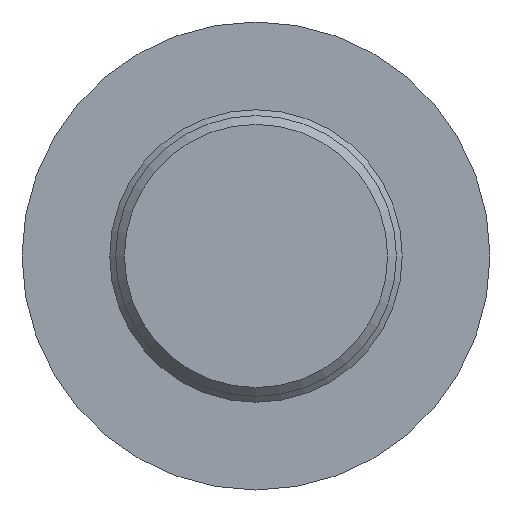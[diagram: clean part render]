
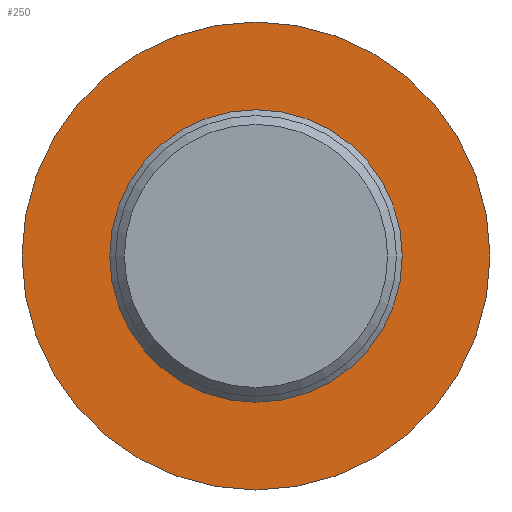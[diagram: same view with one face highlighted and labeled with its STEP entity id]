
A CAD part, front view. The second image highlights one B-rep face of the part: STEP entity #250.
In plain terms, the highlighted planar face has unit normal (0, -1, 0).
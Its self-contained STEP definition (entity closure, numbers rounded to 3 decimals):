
#17=FACE_BOUND('',#61,.T.);
#30=PLANE('',#303);
#43=FACE_OUTER_BOUND('',#60,.T.);
#60=EDGE_LOOP('',(#214,#215));
#61=EDGE_LOOP('',(#216,#217));
#100=CIRCLE('',#301,5.);
#101=CIRCLE('',#302,5.);
#102=CIRCLE('',#304,8.);
#103=CIRCLE('',#305,8.);
#126=VERTEX_POINT('',#456);
#127=VERTEX_POINT('',#457);
#128=VERTEX_POINT('',#462);
#129=VERTEX_POINT('',#463);
#157=EDGE_CURVE('',#126,#127,#100,.T.);
#158=EDGE_CURVE('',#127,#126,#101,.T.);
#160=EDGE_CURVE('',#128,#129,#102,.T.);
#161=EDGE_CURVE('',#129,#128,#103,.T.);
#214=ORIENTED_EDGE('',*,*,#160,.F.);
#215=ORIENTED_EDGE('',*,*,#161,.F.);
#216=ORIENTED_EDGE('',*,*,#157,.T.);
#217=ORIENTED_EDGE('',*,*,#158,.T.);
#250=ADVANCED_FACE('',(#43,#17),#30,.T.);
#301=AXIS2_PLACEMENT_3D('',#458,#375,#376);
#302=AXIS2_PLACEMENT_3D('',#459,#377,#378);
#303=AXIS2_PLACEMENT_3D('',#461,#380,#381);
#304=AXIS2_PLACEMENT_3D('',#464,#382,#383);
#305=AXIS2_PLACEMENT_3D('',#465,#384,#385);
#375=DIRECTION('center_axis',(0.,1.,0.));
#376=DIRECTION('ref_axis',(1.,0.,0.));
#377=DIRECTION('center_axis',(0.,1.,0.));
#378=DIRECTION('ref_axis',(1.,0.,0.));
#380=DIRECTION('center_axis',(0.,-1.,0.));
#381=DIRECTION('ref_axis',(0.,0.,-1.));
#382=DIRECTION('center_axis',(0.,1.,0.));
#383=DIRECTION('ref_axis',(1.,0.,0.));
#384=DIRECTION('center_axis',(0.,1.,0.));
#385=DIRECTION('ref_axis',(1.,0.,0.));
#456=CARTESIAN_POINT('',(0.,-539.,5.));
#457=CARTESIAN_POINT('',(0.,-539.,-5.));
#458=CARTESIAN_POINT('Origin',(0.,-539.,0.));
#459=CARTESIAN_POINT('Origin',(0.,-539.,0.));
#461=CARTESIAN_POINT('Origin',(0.,-539.,8.));
#462=CARTESIAN_POINT('',(0.,-539.,8.));
#463=CARTESIAN_POINT('',(0.,-539.,-8.));
#464=CARTESIAN_POINT('Origin',(0.,-539.,0.));
#465=CARTESIAN_POINT('Origin',(0.,-539.,0.));
